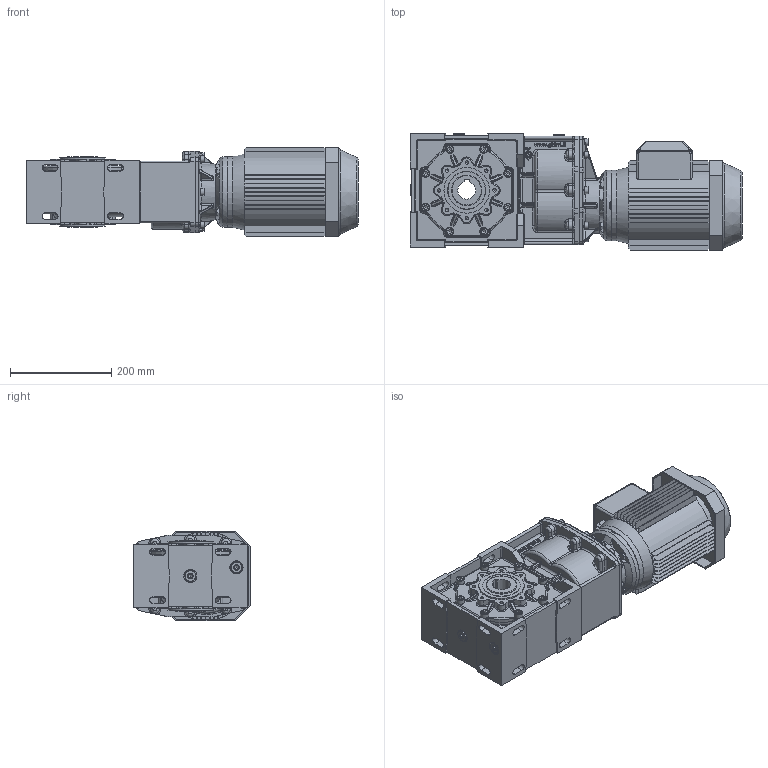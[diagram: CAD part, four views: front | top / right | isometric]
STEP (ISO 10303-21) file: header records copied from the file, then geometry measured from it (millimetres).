
FILE_DESCRIPTION((''),'2;1');
FILE_NAME('S:\Ghirri\3D\MO_RO30\Assiemi\MO30_3s-B14_90L.stp','2006-02-01T17:16:50',('Stefano'),(''),'Autodesk Inventor 10','Autodesk Inventor 10','');
FILE_SCHEMA(('AUTOMOTIVE_DESIGN { 1 0 10303 214 1 1 1 1 }'));
Length unit declared in the file: millimetre
Products named in the file (16): MO30_3s-B14_90L; Primario_MO30_3S; 3903001-A0; 3903002-A0; 3903003-A0; 3903009-A0; DIN 3760 AS AS - 60 x 75 x 8 - NBR; Guarnizione 3_8 GAS; Tappo 3_8 GAS_esagn_incsst; UNI 5931  M 10 x  25; UNI 5931  M 8 x  25; UNI 8839 A 8; motori B14 90L; 4011006-B0; UNI 5739  M8 x 25
Assembly tree (48 placements, depth 3):
  MO30_3s-B14_90L
    Primario_MO30_3S
      3903001-A0
      3903002-A0
      3903003-A0
      3903009-A0
      DIN 3760 AS AS - 60 x 75 x 8 - NBR  x2
      Guarnizione 3_8 GAS  x5
      Tappo 3_8 GAS_esagn_incsst  x5
      UNI 5931  M 10 x  25  x8
      UNI 5931  M 8 x  25  x8
      UNI 8839 A 8  x8
    motori B14 90L
    4011006-B0
      4011006-B0
      UNI 5739  M8 x 25  x4
Bounding box: 656 x 230.3 x 177 mm (x, y, z)
Volume: 13118734.2 mm3; surface area: 1143306.8 mm2
Topology: 46 solids, 50 shells, 3529 faces, 8968 edges, 5558 vertices
Faces by surface type: plane 1339, cylinder 989, bspline 928, cone 160, torus 109, sphere 4
Full cylindrical faces by diameter (mm): 8 x14, 8.5 x8, 10 x8, 10.5 x8, 11.63 x4, 13 x8, 14.95 x1, 15.5 x6, 16 x8, 16.3 x5, 16.5 x5, 22 x10, 24 x1, 25 x1, 60 x2, 64.8 x2, 70 x1, 71 x2, 75 x4, 80 x2, 90 x2, 95 x1, 110 x1, 114.4 x1, 140 x2, 154.4 x1, 160 x3
Entity records: 147093 total; most frequent: CARTESIAN_POINT 74732, ORIENTED_EDGE 15364, DIRECTION 14460, EDGE_CURVE 7682, AXIS2_PLACEMENT_3D 5405, VERTEX_POINT 4888, VECTOR 3650, LINE 3650
